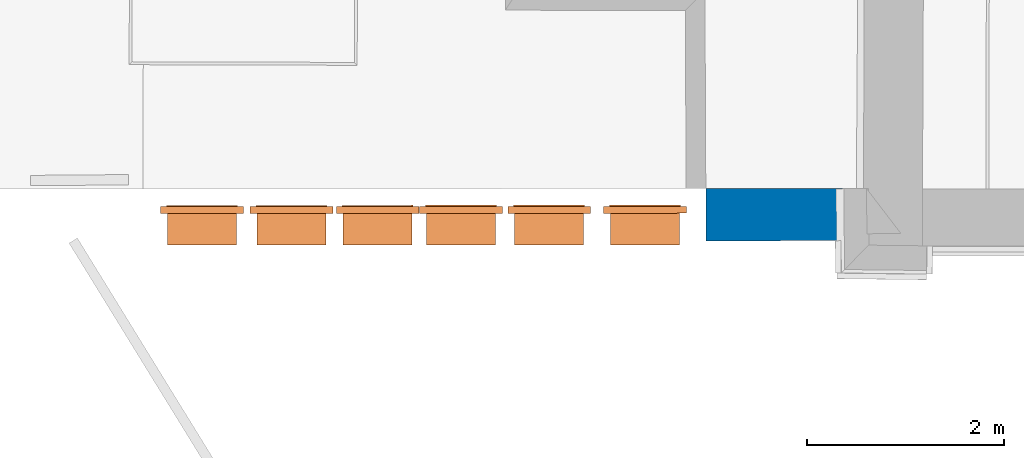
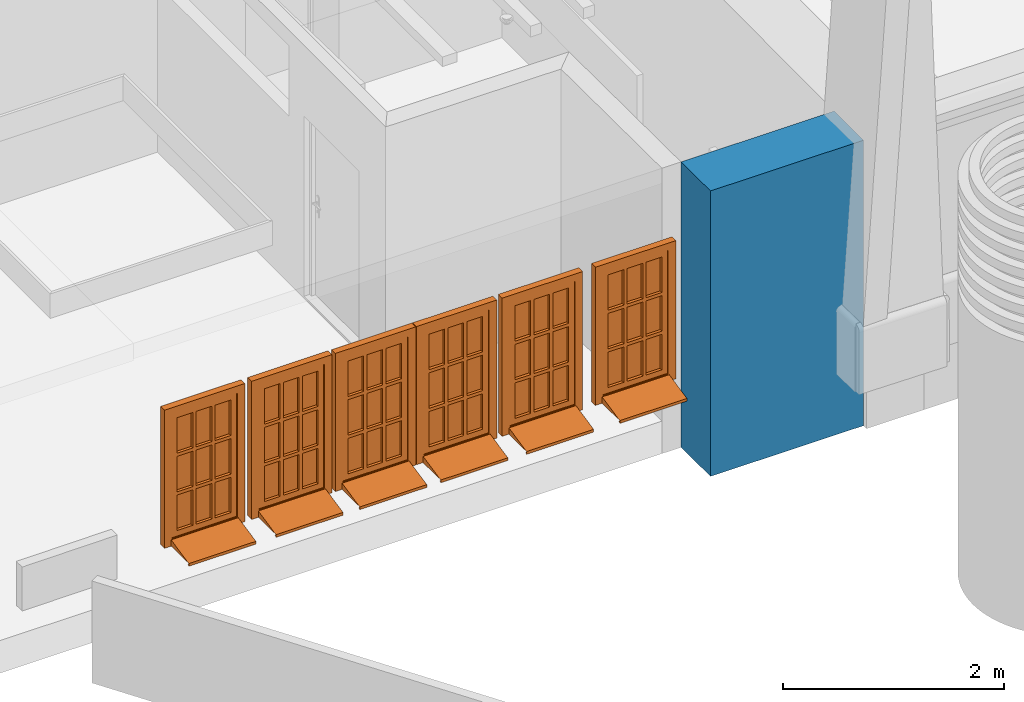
# One storey, part 67 of 196: 6 proxies, 1 wall, 6 openings.
"""IFC2X3 building model written with IfcOpenShell, lengths in metres."""

from ifc_helpers import new_model, entity, si_unit, converted_unit, derived_unit, money_unit, direction, frame, origin_with_axes, origin_2d_with_axis, place, context, subcontext, project, spatial, polyline, rectangle, outline, extrude, boolean, open_shell, faceted_brep, surface_model, source, transform, mapped, material, type_object, element, fill, save


model = new_model("IFC2X3")

# Units and contexts
model_context = context("Model", 3, precision=1e-05, world=origin_with_axes(), true_north=direction((0.0, 1.0)))
body_context = subcontext(model_context, "Body", "Model", "MODEL_VIEW")
ifc_project = project(units=[si_unit("LENGTHUNIT", "METRE"), si_unit("AREAUNIT", "SQUARE_METRE"), si_unit("VOLUMEUNIT", "CUBIC_METRE"), converted_unit("PLANEANGLEUNIT", "DEGREE", entity("IfcPlaneAngleMeasure", 0.0174532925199), si_unit("PLANEANGLEUNIT", "RADIAN"), dimensions=[0, 0, 0, 0, 0, 0, 0]), money_unit("EUR"), converted_unit("TIMEUNIT", "Year", entity("IfcTimeMeasure", 31556926.0), si_unit("TIMEUNIT", "SECOND"), dimensions=[0, 0, 1, 0, 0, 0, 0]), si_unit("MASSUNIT", "GRAM", prefix="KILO"), si_unit("THERMODYNAMICTEMPERATUREUNIT", "DEGREE_CELSIUS"), si_unit("LUMINOUSINTENSITYUNIT", "LUMEN"), si_unit("ENERGYUNIT", "JOULE", prefix="MEGA"), derived_unit("THERMALCONDUCTANCEUNIT", [(si_unit("POWERUNIT", "WATT"), 1), (si_unit("LENGTHUNIT", "METRE"), -1), (si_unit("THERMODYNAMICTEMPERATUREUNIT", "KELVIN"), -1)]), derived_unit("SPECIFICHEATCAPACITYUNIT", [(si_unit("ENERGYUNIT", "JOULE"), 1), (si_unit("MASSUNIT", "GRAM", prefix="KILO"), -1), (si_unit("THERMODYNAMICTEMPERATUREUNIT", "KELVIN"), -1)]), derived_unit("MASSDENSITYUNIT", [(si_unit("MASSUNIT", "GRAM", prefix="KILO"), 1), (si_unit("VOLUMEUNIT", "CUBIC_METRE"), -1)])], contexts=[model_context])

# Site, building, storey
site_placement = place(None, origin_with_axes())
site = spatial("IfcSite", under=ifc_project, at=site_placement, Name="Gelände", CompositionType="ELEMENT")
building_placement = place(site_placement, origin_with_axes())
building = spatial("IfcBuilding", under=site, at=building_placement, Name="Gebäude", CompositionType="ELEMENT")
storey_placement = place(building_placement, frame((0.0, 0.0, -3.0), z_axis=(0.0, 0.0, 1.0), x_axis=(1.0, 0.0, 0.0)))
storey = spatial("IfcBuildingStorey", under=building, at=storey_placement, Name="KELLERGESCHOSS", CompositionType="ELEMENT", Elevation=-3.0)

# Wall, openings, proxies
ifc_material = material(Name="05_ALLGEMEIN - TRAGENDE BAUTEILE")
wall_type = type_object("IfcWallType", Name="05_ALLGEMEIN - TRAGENDE BAUTEILE 530", PredefinedType="ELEMENTEDWALL")
wall_placement = place(storey_placement, frame((12.4270541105, 9.93827663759, -0.36), z_axis=(0.0, 0.0, 1.0), x_axis=(0.99999979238, 0.000644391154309, 0.0)))
wall = element("IfcWall", 1, at=wall_placement, inside=storey, type_object=wall_type, material=ifc_material, Name="Wand-034", ObjectType="ELEMENTEDWALL", context=body_context, shape_type="CSG", body=[
    boolean("DIFFERENCE", boolean("DIFFERENCE", boolean("DIFFERENCE", extrude(outline(polyline([(-0.400000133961, 0.0), (9.94781990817, 0.0), (9.94781990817, 0.53), (-0.400000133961, 0.53), (-0.400000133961, 0.0)])), origin_with_axes(), (0.0, 0.0, 1.0), 3.15), faceted_brep([(0.0, 0.529620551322, 3.15), (0.0, 0.53, 3.15), (-0.400000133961, 0.53, 3.15), (-0.400000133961, 0.0, 3.15), (0.0, 0.0, 3.15), (0.000433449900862, 0.529620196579, 3.15), (0.0, 0.53, 3.065), (0.0, 0.529620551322, 3.065), (-0.0942180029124, 0.529999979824, 0.32), (-0.0942180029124, 0.529999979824, 0.0), (-0.400000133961, 0.53, 0.0), (-0.0942180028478, 0.53, 3.065), (-0.0942180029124, 0.529999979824, 2.8), (-0.400000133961, 0.0, 0.0), (0.0, 0.0, 3.065), (0.0, 0.0, 0.0), (0.000433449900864, 0.529620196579, 3.065), (-0.399513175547, 0.529929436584, 3.065), (-0.399513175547, 0.529929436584, 0.0)], [[[0, 1, 2, 3, 4, 5]], [[6, 1, 0, 7]], [[8, 9, 10, 2, 1, 6, 11, 12]], [[2, 10, 13, 3]], [[14, 4, 3, 13, 15]], [[5, 4, 14, 16]], [[0, 5, 16, 7]], [[11, 6, 7, 16, 14, 17]], [[12, 11, 17, 18, 9, 8]], [[18, 15, 13, 10, 9]], [[14, 15, 18, 17]]])), faceted_brep([(7.91312025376, 0.0, 0.0), (7.91312025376, 0.0, 3.15), (7.71311872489, 0.0, 3.15), (7.71311872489, 0.0, 0.0), (7.91104790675, 0.53, 3.15), (7.91104790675, 0.53, 0.0), (7.71104637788, 0.53, 3.15), (7.71104637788, 0.53, 0.0)], [[[0, 1, 2, 3]], [[4, 1, 0, 5]], [[1, 4, 6, 2]], [[3, 2, 6, 7]], [[5, 0, 3, 7]], [[4, 5, 7, 6]]])), faceted_brep([(9.51192517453, 0.53, 0.0), (9.51192517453, 0.53, 3.15), (9.94781990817, 0.53, 3.15), (9.94781990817, 0.53, 0.0), (9.50934545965, 0.0, 3.15), (9.50934545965, 0.0, 0.0), (9.94781990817, 0.0, 3.15), (9.94781990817, 0.0, 0.0)], [[[0, 1, 2, 3]], [[4, 1, 0, 5]], [[1, 4, 6, 2]], [[6, 7, 3, 2]], [[5, 0, 3, 7]], [[4, 5, 7, 6]]])),
])
opening_1_placement = place(wall_placement, frame((2.79283683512, 0.0, 0.977921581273), z_axis=(0.0, 0.0, 1.0), x_axis=(1.0, 0.0, 0.0)))
opening_1 = element("IfcOpeningElement", 2, at=opening_1_placement, cuts=wall, Name="Fenster-015", context=body_context, shape_type="SweptSolid", body=[
    extrude(rectangle(XDim=0.700207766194, YDim=1.45470991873, at=origin_2d_with_axis()), frame((0.0, 0.28, 0.727354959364), z_axis=(0.0, 1.0, 0.0), x_axis=(1.0, 0.0, 0.0)), (0.0, 0.0, -1.0), 0.81),
    extrude(rectangle(XDim=0.840207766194, YDim=1.52470991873, at=origin_2d_with_axis()), frame((0.0, 0.28, 0.762354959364), z_axis=(0.0, -1.0, 0.0), x_axis=(1.0, 0.0, 0.0)), (0.0, 0.0, -1.0), 0.78),
])
opening_2_placement = place(wall_placement, frame((3.7026805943, 0.0, 0.977921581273), z_axis=(0.0, 0.0, 1.0), x_axis=(1.0, 0.0, 0.0)))
opening_2 = element("IfcOpeningElement", 3, at=opening_2_placement, cuts=wall, Name="Fenster-015", context=body_context, shape_type="SweptSolid", body=[
    extrude(rectangle(XDim=0.700207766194, YDim=1.45470991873, at=origin_2d_with_axis()), frame((0.0, 0.28, 0.727354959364), z_axis=(0.0, 1.0, 0.0), x_axis=(1.0, 0.0, 0.0)), (0.0, 0.0, -1.0), 0.81),
    extrude(rectangle(XDim=0.840207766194, YDim=1.52470991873, at=origin_2d_with_axis()), frame((0.0, 0.28, 0.762354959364), z_axis=(0.0, -1.0, 0.0), x_axis=(1.0, 0.0, 0.0)), (0.0, 0.0, -1.0), 0.78),
])
opening_3_placement = place(wall_placement, frame((4.57727240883, 0.0, 0.977921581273), z_axis=(0.0, 0.0, 1.0), x_axis=(1.0, 0.0, 0.0)))
opening_3 = element("IfcOpeningElement", 4, at=opening_3_placement, cuts=wall, Name="Fenster-015", context=body_context, shape_type="SweptSolid", body=[
    extrude(rectangle(XDim=0.700207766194, YDim=1.45470991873, at=origin_2d_with_axis()), frame((0.0, 0.28, 0.727354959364), z_axis=(0.0, 1.0, 0.0), x_axis=(1.0, 0.0, 0.0)), (0.0, 0.0, -1.0), 0.81),
    extrude(rectangle(XDim=0.840207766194, YDim=1.52470991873, at=origin_2d_with_axis()), frame((0.0, 0.28, 0.762354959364), z_axis=(0.0, -1.0, 0.0), x_axis=(1.0, 0.0, 0.0)), (0.0, 0.0, -1.0), 0.78),
])
opening_4_placement = place(wall_placement, frame((5.42324881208, 0.0, 0.977921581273), z_axis=(0.0, 0.0, 1.0), x_axis=(1.0, 0.0, 0.0)))
opening_4 = element("IfcOpeningElement", 5, at=opening_4_placement, cuts=wall, Name="Fenster-015", context=body_context, shape_type="SweptSolid", body=[
    extrude(rectangle(XDim=0.700207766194, YDim=1.45470991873, at=origin_2d_with_axis()), frame((0.0, 0.28, 0.727354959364), z_axis=(0.0, 1.0, 0.0), x_axis=(1.0, 0.0, 0.0)), (0.0, 0.0, -1.0), 0.81),
    extrude(rectangle(XDim=0.840207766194, YDim=1.52470991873, at=origin_2d_with_axis()), frame((0.0, 0.28, 0.762354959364), z_axis=(0.0, -1.0, 0.0), x_axis=(1.0, 0.0, 0.0)), (0.0, 0.0, -1.0), 0.78),
])
opening_5_placement = place(wall_placement, frame((6.3194075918, 0.0, 0.977921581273), z_axis=(0.0, 0.0, 1.0), x_axis=(1.0, 0.0, 0.0)))
opening_5 = element("IfcOpeningElement", 6, at=opening_5_placement, cuts=wall, Name="Fenster-015", context=body_context, shape_type="SweptSolid", body=[
    extrude(rectangle(XDim=0.700207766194, YDim=1.45470991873, at=origin_2d_with_axis()), frame((0.0, 0.28, 0.727354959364), z_axis=(0.0, 1.0, 0.0), x_axis=(1.0, 0.0, 0.0)), (0.0, 0.0, -1.0), 0.81),
    extrude(rectangle(XDim=0.840207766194, YDim=1.52470991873, at=origin_2d_with_axis()), frame((0.0, 0.28, 0.762354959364), z_axis=(0.0, -1.0, 0.0), x_axis=(1.0, 0.0, 0.0)), (0.0, 0.0, -1.0), 0.78),
])
opening_6_placement = place(wall_placement, frame((7.29305626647, 0.0, 0.977921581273), z_axis=(0.0, 0.0, 1.0), x_axis=(1.0, 0.0, 0.0)))
opening_6 = element("IfcOpeningElement", 7, at=opening_6_placement, cuts=wall, Name="Fenster-015", context=body_context, shape_type="SweptSolid", body=[
    extrude(rectangle(XDim=0.700207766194, YDim=1.45470991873, at=origin_2d_with_axis()), frame((0.0, 0.28, 0.727354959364), z_axis=(0.0, 1.0, 0.0), x_axis=(1.0, 0.0, 0.0)), (0.0, 0.0, -1.0), 0.81),
    extrude(rectangle(XDim=0.840207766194, YDim=1.52470991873, at=origin_2d_with_axis()), frame((0.0, 0.28, 0.762354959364), z_axis=(0.0, -1.0, 0.0), x_axis=(1.0, 0.0, 0.0)), (0.0, 0.0, -1.0), 0.78),
])
building_element_proxy_type = type_object("IfcBuildingElementProxyType", Name="1-Flügelfenster 25", PredefinedType="NOTDEFINED")
shared_shape = source(origin_with_axes(), body_context, "Body", "SurfaceModel", [
    surface_model("IfcShellBasedSurfaceModel", [(-0.350103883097, -0.071, 0.08), (-0.350103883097, -0.071, 0.07), (0.350103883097, -0.071, 0.07), (0.350103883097, -0.071, 0.08), (-0.350103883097, -0.39, 0.00142857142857), (0.350103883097, -0.39, 0.00142857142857), (-0.350103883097, -0.39, -0.0285714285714), (0.350103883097, -0.39, -0.0285714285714), (-0.350103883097, -0.375, -0.0135714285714), (0.350103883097, -0.375, -0.0135714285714)], [open_shell([[[0, 1, 2, 3]], [[1, 4, 5, 2]], [[4, 6, 7, 5]], [[6, 8, 9, 7]]])]),
    faceted_brep([(-0.350103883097, -0.07, 0.0689771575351), (-0.350103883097, -0.35, 0.00878906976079), (0.350103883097, -0.35, 0.00878906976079), (0.350103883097, -0.07, 0.0689771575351), (-0.350103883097, -0.07, 0.0), (-0.350103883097, -0.35, 0.0), (0.350103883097, -0.35, 0.0), (0.350103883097, -0.07, 0.0)], [[[0, 1, 2, 3]], [[0, 4, 5, 1]], [[1, 5, 6, 2]], [[3, 2, 6, 7]], [[4, 0, 3, 7]], [[5, 4, 7, 6]]]),
    faceted_brep([(-0.420103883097, -0.07, 0.0), (-0.420103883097, 0.0, 0.0), (-0.340103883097, 0.0, 0.08), (-0.340103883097, -0.07, 0.08), (-0.420103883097, -0.07, 1.52470991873), (-0.420103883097, 0.0, 1.52470991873), (-0.340103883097, 0.0, 1.44470991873), (-0.340103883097, -0.07, 1.44470991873)], [[[0, 1, 2, 3]], [[4, 5, 1, 0]], [[1, 5, 6, 2]], [[3, 2, 6, 7]], [[0, 3, 7, 4]], [[7, 6, 5, 4]]]),
    faceted_brep([(0.420103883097, -0.07, 0.0), (0.420103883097, 0.0, 0.0), (0.420103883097, 0.0, 1.52470991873), (0.420103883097, -0.07, 1.52470991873), (0.340103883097, -0.07, 0.08), (0.340103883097, 0.0, 0.08), (0.340103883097, 0.0, 1.44470991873), (0.340103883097, -0.07, 1.44470991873)], [[[0, 1, 2, 3]], [[4, 5, 1, 0]], [[1, 5, 6, 2]], [[3, 2, 6, 7]], [[0, 3, 7, 4]], [[7, 6, 5, 4]]]),
    faceted_brep([(-0.420103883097, -0.07, 0.0), (-0.420103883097, 0.0, 0.0), (0.420103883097, 0.0, 0.0), (0.420103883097, -0.07, 0.0), (-0.340103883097, -0.07, 0.08), (-0.340103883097, 0.0, 0.08), (0.0, 0.0, 0.08), (0.340103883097, 0.0, 0.08), (0.340103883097, -0.07, 0.08), (0.0, -0.07, 0.08)], [[[0, 1, 2, 3]], [[4, 5, 1, 0]], [[1, 5, 6, 7, 2]], [[3, 2, 7, 8]], [[0, 3, 8, 9, 4]], [[9, 6, 5, 4]], [[8, 7, 6, 9]]]),
    faceted_brep([(-0.420103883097, -0.07, 1.52470991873), (-0.420103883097, 0.0, 1.52470991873), (-0.340103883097, 0.0, 1.44470991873), (-0.340103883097, -0.07, 1.44470991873), (0.420103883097, -0.07, 1.52470991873), (0.420103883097, 0.0, 1.52470991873), (0.340103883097, 0.0, 1.44470991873), (0.0, 0.0, 1.44470991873), (0.0, -0.07, 1.44470991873), (0.340103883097, -0.07, 1.44470991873)], [[[0, 1, 2, 3]], [[4, 5, 1, 0]], [[1, 5, 6, 7, 2]], [[3, 2, 7, 8]], [[0, 3, 8, 9, 4]], [[9, 6, 5, 4]], [[8, 7, 6, 9]]]),
    faceted_brep([(-0.360103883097, 0.0, 0.06), (-0.360103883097, 0.013, 0.06), (-0.280103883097, 0.013, 0.14), (-0.280103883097, 0.0, 0.14), (-0.360103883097, 0.0, 1.46470991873), (-0.360103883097, 0.013, 1.46470991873), (-0.280103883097, 0.013, 1.38470991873), (-0.280103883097, 0.0, 1.38470991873)], [[[0, 1, 2, 3]], [[4, 5, 1, 0]], [[1, 5, 6, 2]], [[3, 2, 6, 7]], [[0, 3, 7, 4]], [[7, 6, 5, 4]]]),
    faceted_brep([(0.360103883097, 0.0, 0.06), (0.280103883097, 0.0, 0.14), (0.280103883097, 0.013, 0.14), (0.360103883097, 0.013, 0.06), (0.360103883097, 0.0, 1.46470991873), (0.280103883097, 0.0, 1.38470991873), (0.280103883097, 0.013, 1.38470991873), (0.360103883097, 0.013, 1.46470991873)], [[[0, 1, 2, 3]], [[0, 4, 5, 1]], [[1, 5, 6, 2]], [[3, 2, 6, 7]], [[4, 0, 3, 7]], [[5, 4, 7, 6]]]),
    faceted_brep([(-0.360103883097, 0.0, 0.06), (-0.360103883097, 0.013, 0.06), (0.360103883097, 0.013, 0.06), (0.360103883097, 0.0, 0.06), (-0.280103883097, 0.0, 0.14), (-0.280103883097, 0.013, 0.14), (0.280103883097, 0.013, 0.14), (0.280103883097, 0.0, 0.14)], [[[0, 1, 2, 3]], [[4, 5, 1, 0]], [[1, 5, 6, 2]], [[3, 2, 6, 7]], [[0, 3, 7, 4]], [[7, 6, 5, 4]]]),
    faceted_brep([(-0.360103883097, 0.0, 1.46470991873), (0.360103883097, 0.0, 1.46470991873), (0.360103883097, 0.013, 1.46470991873), (-0.360103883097, 0.013, 1.46470991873), (-0.280103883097, 0.0, 1.38470991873), (0.280103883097, 0.0, 1.38470991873), (0.280103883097, 0.013, 1.38470991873), (-0.280103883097, 0.013, 1.38470991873)], [[[0, 1, 2, 3]], [[0, 4, 5, 1]], [[1, 5, 6, 2]], [[3, 2, 6, 7]], [[4, 0, 3, 7]], [[5, 4, 7, 6]]]),
    faceted_brep([(-0.340103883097, -0.057, 0.08), (-0.340103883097, 0.0, 0.08), (-0.280103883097, 0.0, 0.14), (-0.280103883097, -0.057, 0.14), (-0.340103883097, -0.057, 1.44470991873), (-0.340103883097, 0.0, 1.44470991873), (-0.280103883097, 0.0, 1.38470991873), (-0.280103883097, -0.057, 1.38470991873)], [[[0, 1, 2, 3]], [[4, 5, 1, 0]], [[1, 5, 6, 2]], [[3, 2, 6, 7]], [[0, 3, 7, 4]], [[7, 6, 5, 4]]]),
    faceted_brep([(0.340103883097, -0.057, 0.08), (0.280103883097, -0.057, 0.14), (0.280103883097, 0.0, 0.14), (0.340103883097, 0.0, 0.08), (0.340103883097, -0.057, 1.44470991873), (0.280103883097, -0.057, 1.38470991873), (0.280103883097, 0.0, 1.38470991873), (0.340103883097, 0.0, 1.44470991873)], [[[0, 1, 2, 3]], [[0, 4, 5, 1]], [[1, 5, 6, 2]], [[3, 2, 6, 7]], [[4, 0, 3, 7]], [[5, 4, 7, 6]]]),
    faceted_brep([(-0.340103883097, -0.057, 0.08), (-0.340103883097, 0.0, 0.08), (0.340103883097, 0.0, 0.08), (0.340103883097, -0.057, 0.08), (-0.280103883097, -0.057, 0.14), (-0.280103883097, 0.0, 0.14), (0.280103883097, 0.0, 0.14), (0.280103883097, -0.057, 0.14)], [[[0, 1, 2, 3]], [[4, 5, 1, 0]], [[1, 5, 6, 2]], [[3, 2, 6, 7]], [[0, 3, 7, 4]], [[7, 6, 5, 4]]]),
    faceted_brep([(-0.340103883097, -0.057, 1.44470991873), (0.340103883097, -0.057, 1.44470991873), (0.340103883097, 0.0, 1.44470991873), (-0.340103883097, 0.0, 1.44470991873), (-0.280103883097, -0.057, 1.38470991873), (0.280103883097, -0.057, 1.38470991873), (0.280103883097, 0.0, 1.38470991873), (-0.280103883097, 0.0, 1.38470991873)], [[[0, 1, 2, 3]], [[0, 4, 5, 1]], [[1, 5, 6, 2]], [[3, 2, 6, 7]], [[4, 0, 3, 7]], [[5, 4, 7, 6]]]),
    faceted_brep([(-0.116701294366, -0.057, 0.14), (-0.116701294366, -0.022, 0.14), (-0.0817012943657, -0.022, 0.14), (-0.0817012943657, -0.057, 0.14), (-0.116701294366, -0.057, 1.38470991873), (-0.116701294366, -0.022, 1.38470991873), (-0.0817012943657, -0.022, 1.38470991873), (-0.0817012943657, -0.057, 1.38470991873)], [[[0, 1, 2, 3]], [[4, 5, 1, 0]], [[1, 5, 6, 2]], [[3, 2, 6, 7]], [[0, 3, 7, 4]], [[7, 6, 5, 4]]]),
    faceted_brep([(-0.116701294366, -0.022, 0.14), (-0.116701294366, 0.013, 0.14), (-0.0817012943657, 0.013, 0.14), (-0.0817012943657, -0.022, 0.14), (-0.116701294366, -0.022, 1.38470991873), (-0.116701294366, 0.013, 1.38470991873), (-0.0817012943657, 0.013, 1.38470991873), (-0.0817012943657, -0.022, 1.38470991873)], [[[0, 1, 2, 3]], [[4, 5, 1, 0]], [[1, 5, 6, 2]], [[3, 2, 6, 7]], [[0, 3, 7, 4]], [[7, 6, 5, 4]]]),
    faceted_brep([(0.0817012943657, -0.057, 0.14), (0.0817012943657, -0.022, 0.14), (0.116701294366, -0.022, 0.14), (0.116701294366, -0.057, 0.14), (0.0817012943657, -0.057, 1.38470991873), (0.0817012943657, -0.022, 1.38470991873), (0.116701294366, -0.022, 1.38470991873), (0.116701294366, -0.057, 1.38470991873)], [[[0, 1, 2, 3]], [[4, 5, 1, 0]], [[1, 5, 6, 2]], [[3, 2, 6, 7]], [[0, 3, 7, 4]], [[7, 6, 5, 4]]]),
    faceted_brep([(0.0817012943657, -0.022, 0.14), (0.0817012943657, 0.013, 0.14), (0.116701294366, 0.013, 0.14), (0.116701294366, -0.022, 0.14), (0.0817012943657, -0.022, 1.38470991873), (0.0817012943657, 0.013, 1.38470991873), (0.116701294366, 0.013, 1.38470991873), (0.116701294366, -0.022, 1.38470991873)], [[[0, 1, 2, 3]], [[4, 5, 1, 0]], [[1, 5, 6, 2]], [[3, 2, 6, 7]], [[0, 3, 7, 4]], [[7, 6, 5, 4]]]),
    faceted_brep([(0.0817012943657, -0.057, 0.531569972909), (0.0817012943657, -0.057, 0.566569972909), (-0.0817012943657, -0.057, 0.566569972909), (-0.0817012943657, -0.057, 0.531569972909), (0.0817012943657, -0.022, 0.566569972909), (0.0817012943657, -0.022, 0.531569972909), (-0.0817012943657, -0.022, 0.566569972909), (-0.0817012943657, -0.022, 0.531569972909)], [[[0, 1, 2, 3]], [[4, 1, 0, 5]], [[1, 4, 6, 2]], [[2, 6, 7, 3]], [[5, 0, 3, 7]], [[4, 5, 7, 6]]]),
    faceted_brep([(-0.280103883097, -0.057, 0.566569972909), (-0.280103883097, -0.057, 0.531569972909), (-0.116701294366, -0.057, 0.531569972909), (-0.116701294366, -0.057, 0.566569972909), (-0.280103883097, -0.022, 0.566569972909), (-0.280103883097, -0.022, 0.531569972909), (-0.116701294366, -0.022, 0.531569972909), (-0.116701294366, -0.022, 0.566569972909)], [[[0, 1, 2, 3]], [[1, 0, 4, 5]], [[1, 5, 6, 2]], [[2, 6, 7, 3]], [[4, 0, 3, 7]], [[5, 4, 7, 6]]]),
    faceted_brep([(0.116701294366, -0.022, 0.566569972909), (0.116701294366, -0.057, 0.566569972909), (0.280103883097, -0.057, 0.566569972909), (0.280103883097, -0.022, 0.566569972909), (0.116701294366, -0.057, 0.531569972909), (0.116701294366, -0.022, 0.531569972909), (0.280103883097, -0.057, 0.531569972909), (0.280103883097, -0.022, 0.531569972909)], [[[0, 1, 2, 3]], [[4, 1, 0, 5]], [[1, 4, 6, 2]], [[3, 2, 6, 7]], [[5, 0, 3, 7]], [[4, 5, 7, 6]]]),
    faceted_brep([(0.0817012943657, -0.022, 0.531569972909), (0.0817012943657, -0.022, 0.566569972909), (-0.0817012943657, -0.022, 0.566569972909), (-0.0817012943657, -0.022, 0.531569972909), (0.0817012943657, 0.013, 0.566569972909), (0.0817012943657, 0.013, 0.531569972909), (-0.0817012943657, 0.013, 0.566569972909), (-0.0817012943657, 0.013, 0.531569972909)], [[[0, 1, 2, 3]], [[4, 1, 0, 5]], [[1, 4, 6, 2]], [[2, 6, 7, 3]], [[5, 0, 3, 7]], [[4, 5, 7, 6]]]),
    faceted_brep([(-0.280103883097, -0.022, 0.566569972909), (-0.280103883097, -0.022, 0.531569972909), (-0.116701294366, -0.022, 0.531569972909), (-0.116701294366, -0.022, 0.566569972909), (-0.280103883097, 0.013, 0.566569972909), (-0.280103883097, 0.013, 0.531569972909), (-0.116701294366, 0.013, 0.531569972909), (-0.116701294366, 0.013, 0.566569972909)], [[[0, 1, 2, 3]], [[1, 0, 4, 5]], [[1, 5, 6, 2]], [[2, 6, 7, 3]], [[4, 0, 3, 7]], [[5, 4, 7, 6]]]),
    faceted_brep([(0.116701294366, 0.013, 0.566569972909), (0.116701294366, -0.022, 0.566569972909), (0.280103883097, -0.022, 0.566569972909), (0.280103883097, 0.013, 0.566569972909), (0.116701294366, -0.022, 0.531569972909), (0.116701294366, 0.013, 0.531569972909), (0.280103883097, -0.022, 0.531569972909), (0.280103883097, 0.013, 0.531569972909)], [[[0, 1, 2, 3]], [[4, 1, 0, 5]], [[1, 4, 6, 2]], [[3, 2, 6, 7]], [[5, 0, 3, 7]], [[4, 5, 7, 6]]]),
    faceted_brep([(0.0817012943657, -0.057, 0.958139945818), (0.0817012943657, -0.057, 0.993139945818), (-0.0817012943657, -0.057, 0.993139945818), (-0.0817012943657, -0.057, 0.958139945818), (0.0817012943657, -0.022, 0.993139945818), (0.0817012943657, -0.022, 0.958139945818), (-0.0817012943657, -0.022, 0.993139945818), (-0.0817012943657, -0.022, 0.958139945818)], [[[0, 1, 2, 3]], [[4, 1, 0, 5]], [[1, 4, 6, 2]], [[2, 6, 7, 3]], [[5, 0, 3, 7]], [[4, 5, 7, 6]]]),
    faceted_brep([(-0.280103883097, -0.057, 0.993139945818), (-0.280103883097, -0.057, 0.958139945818), (-0.116701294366, -0.057, 0.958139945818), (-0.116701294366, -0.057, 0.993139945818), (-0.280103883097, -0.022, 0.993139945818), (-0.280103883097, -0.022, 0.958139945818), (-0.116701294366, -0.022, 0.958139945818), (-0.116701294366, -0.022, 0.993139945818)], [[[0, 1, 2, 3]], [[1, 0, 4, 5]], [[1, 5, 6, 2]], [[2, 6, 7, 3]], [[4, 0, 3, 7]], [[5, 4, 7, 6]]]),
    faceted_brep([(0.116701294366, -0.022, 0.993139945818), (0.116701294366, -0.057, 0.993139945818), (0.280103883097, -0.057, 0.993139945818), (0.280103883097, -0.022, 0.993139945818), (0.116701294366, -0.057, 0.958139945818), (0.116701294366, -0.022, 0.958139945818), (0.280103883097, -0.057, 0.958139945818), (0.280103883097, -0.022, 0.958139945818)], [[[0, 1, 2, 3]], [[4, 1, 0, 5]], [[1, 4, 6, 2]], [[3, 2, 6, 7]], [[5, 0, 3, 7]], [[4, 5, 7, 6]]]),
    faceted_brep([(0.0817012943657, -0.022, 0.958139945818), (0.0817012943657, -0.022, 0.993139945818), (-0.0817012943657, -0.022, 0.993139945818), (-0.0817012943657, -0.022, 0.958139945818), (0.0817012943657, 0.013, 0.993139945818), (0.0817012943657, 0.013, 0.958139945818), (-0.0817012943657, 0.013, 0.993139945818), (-0.0817012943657, 0.013, 0.958139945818)], [[[0, 1, 2, 3]], [[4, 1, 0, 5]], [[1, 4, 6, 2]], [[2, 6, 7, 3]], [[5, 0, 3, 7]], [[4, 5, 7, 6]]]),
    faceted_brep([(-0.280103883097, -0.022, 0.993139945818), (-0.280103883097, -0.022, 0.958139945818), (-0.116701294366, -0.022, 0.958139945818), (-0.116701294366, -0.022, 0.993139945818), (-0.280103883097, 0.013, 0.993139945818), (-0.280103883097, 0.013, 0.958139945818), (-0.116701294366, 0.013, 0.958139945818), (-0.116701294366, 0.013, 0.993139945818)], [[[0, 1, 2, 3]], [[1, 0, 4, 5]], [[1, 5, 6, 2]], [[2, 6, 7, 3]], [[4, 0, 3, 7]], [[5, 4, 7, 6]]]),
    faceted_brep([(0.116701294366, 0.013, 0.993139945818), (0.116701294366, -0.022, 0.993139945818), (0.280103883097, -0.022, 0.993139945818), (0.280103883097, 0.013, 0.993139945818), (0.116701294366, -0.022, 0.958139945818), (0.116701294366, 0.013, 0.958139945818), (0.280103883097, -0.022, 0.958139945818), (0.280103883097, 0.013, 0.958139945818)], [[[0, 1, 2, 3]], [[4, 1, 0, 5]], [[1, 4, 6, 2]], [[3, 2, 6, 7]], [[5, 0, 3, 7]], [[4, 5, 7, 6]]]),
    faceted_brep([(-0.116701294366, -0.017, 0.958139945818), (-0.116701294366, -0.027, 0.958139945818), (-0.116701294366, -0.027, 0.566569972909), (-0.116701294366, -0.017, 0.566569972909), (-0.280103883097, -0.027, 0.958139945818), (-0.280103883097, -0.017, 0.958139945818), (-0.280103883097, -0.027, 0.566569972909), (-0.280103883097, -0.017, 0.566569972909)], [[[0, 1, 2, 3]], [[4, 1, 0, 5]], [[1, 4, 6, 2]], [[2, 6, 7, 3]], [[5, 0, 3, 7]], [[4, 5, 7, 6]]]),
    faceted_brep([(0.280103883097, -0.027, 0.14), (0.280103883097, -0.017, 0.14), (0.280103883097, -0.017, 0.531569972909), (0.280103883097, -0.027, 0.531569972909), (0.116701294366, -0.027, 0.14), (0.116701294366, -0.017, 0.14), (0.116701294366, -0.017, 0.531569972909), (0.116701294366, -0.027, 0.531569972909)], [[[0, 1, 2, 3]], [[0, 4, 5, 1]], [[1, 5, 6, 2]], [[2, 6, 7, 3]], [[4, 0, 3, 7]], [[5, 4, 7, 6]]]),
    faceted_brep([(0.0817012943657, -0.027, 0.14), (0.0817012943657, -0.017, 0.14), (0.0817012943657, -0.017, 0.531569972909), (0.0817012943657, -0.027, 0.531569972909), (-0.0817012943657, -0.017, 0.14), (-0.0817012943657, -0.027, 0.14), (-0.0817012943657, -0.017, 0.531569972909), (-0.0817012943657, -0.027, 0.531569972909)], [[[0, 1, 2, 3]], [[4, 1, 0, 5]], [[1, 4, 6, 2]], [[2, 6, 7, 3]], [[5, 0, 3, 7]], [[4, 5, 7, 6]]]),
    faceted_brep([(-0.116701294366, -0.027, 0.14), (-0.116701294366, -0.017, 0.14), (-0.116701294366, -0.017, 0.531569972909), (-0.116701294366, -0.027, 0.531569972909), (-0.280103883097, -0.027, 0.14), (-0.280103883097, -0.017, 0.14), (-0.280103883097, -0.017, 0.531569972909), (-0.280103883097, -0.027, 0.531569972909)], [[[0, 1, 2, 3]], [[0, 4, 5, 1]], [[1, 5, 6, 2]], [[2, 6, 7, 3]], [[4, 0, 3, 7]], [[5, 4, 7, 6]]]),
    faceted_brep([(0.280103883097, -0.017, 0.958139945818), (0.280103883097, -0.027, 0.958139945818), (0.280103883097, -0.027, 0.566569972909), (0.280103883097, -0.017, 0.566569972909), (0.116701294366, -0.027, 0.958139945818), (0.116701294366, -0.017, 0.958139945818), (0.116701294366, -0.027, 0.566569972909), (0.116701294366, -0.017, 0.566569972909)], [[[0, 1, 2, 3]], [[4, 1, 0, 5]], [[1, 4, 6, 2]], [[2, 6, 7, 3]], [[5, 0, 3, 7]], [[4, 5, 7, 6]]]),
    faceted_brep([(0.0817012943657, -0.017, 0.958139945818), (0.0817012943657, -0.027, 0.958139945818), (0.0817012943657, -0.027, 0.566569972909), (0.0817012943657, -0.017, 0.566569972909), (-0.0817012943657, -0.027, 0.958139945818), (-0.0817012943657, -0.017, 0.958139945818), (-0.0817012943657, -0.027, 0.566569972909), (-0.0817012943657, -0.017, 0.566569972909)], [[[0, 1, 2, 3]], [[4, 1, 0, 5]], [[1, 4, 6, 2]], [[2, 6, 7, 3]], [[5, 0, 3, 7]], [[4, 5, 7, 6]]]),
    faceted_brep([(-0.280103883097, -0.027, 0.993139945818), (-0.116701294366, -0.027, 0.993139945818), (-0.116701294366, -0.027, 1.38470991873), (-0.280103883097, -0.027, 1.38470991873), (-0.116701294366, -0.017, 0.993139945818), (-0.280103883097, -0.017, 0.993139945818), (-0.116701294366, -0.017, 1.38470991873), (-0.280103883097, -0.017, 1.38470991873)], [[[0, 1, 2, 3]], [[4, 1, 0, 5]], [[1, 4, 6, 2]], [[2, 6, 7, 3]], [[5, 0, 3, 7]], [[4, 5, 7, 6]]]),
    faceted_brep([(0.116701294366, -0.027, 0.993139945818), (0.280103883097, -0.027, 0.993139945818), (0.280103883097, -0.027, 1.38470991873), (0.116701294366, -0.027, 1.38470991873), (0.280103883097, -0.017, 0.993139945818), (0.116701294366, -0.017, 0.993139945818), (0.280103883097, -0.017, 1.38470991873), (0.116701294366, -0.017, 1.38470991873)], [[[0, 1, 2, 3]], [[4, 1, 0, 5]], [[1, 4, 6, 2]], [[2, 6, 7, 3]], [[5, 0, 3, 7]], [[4, 5, 7, 6]]]),
    faceted_brep([(-0.0817012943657, -0.027, 0.993139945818), (0.0817012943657, -0.027, 0.993139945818), (0.0817012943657, -0.027, 1.38470991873), (-0.0817012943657, -0.027, 1.38470991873), (0.0817012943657, -0.017, 0.993139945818), (-0.0817012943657, -0.017, 0.993139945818), (0.0817012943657, -0.017, 1.38470991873), (-0.0817012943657, -0.017, 1.38470991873)], [[[0, 1, 2, 3]], [[4, 1, 0, 5]], [[1, 4, 6, 2]], [[7, 3, 2, 6]], [[5, 0, 3, 7]], [[4, 5, 7, 6]]]),
])
proxy_1_placement = place(opening_1_placement, frame((-0.420103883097, 0.0, 0.0), z_axis=(0.0, 0.0, 1.0), x_axis=(1.0, 0.0, 0.0)))
proxy_1 = element("IfcBuildingElementProxy", 8, at=proxy_1_placement, inside=storey, type_object=building_element_proxy_type, Name="Fenster-015", context=body_context, shape_type="MappedRepresentation", body=[
    mapped(shared_shape, transform((0.420103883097, 0.35, 0.0))),
])
fill(opening_1, proxy_1)
proxy_2_placement = place(opening_2_placement, frame((-0.420103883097, 0.0, 0.0), z_axis=(0.0, 0.0, 1.0), x_axis=(1.0, 0.0, 0.0)))
proxy_2 = element("IfcBuildingElementProxy", 9, at=proxy_2_placement, inside=storey, type_object=building_element_proxy_type, Name="Fenster-015", context=body_context, shape_type="MappedRepresentation", body=[
    mapped(shared_shape, transform((0.420103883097, 0.35, 0.0))),
])
fill(opening_2, proxy_2)
proxy_3_placement = place(opening_3_placement, frame((-0.420103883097, 0.0, 0.0), z_axis=(0.0, 0.0, 1.0), x_axis=(1.0, 0.0, 0.0)))
proxy_3 = element("IfcBuildingElementProxy", 10, at=proxy_3_placement, inside=storey, type_object=building_element_proxy_type, Name="Fenster-015", context=body_context, shape_type="MappedRepresentation", body=[
    mapped(shared_shape, transform((0.420103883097, 0.35, 0.0))),
])
fill(opening_3, proxy_3)
proxy_4_placement = place(opening_4_placement, frame((-0.420103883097, 0.0, 0.0), z_axis=(0.0, 0.0, 1.0), x_axis=(1.0, 0.0, 0.0)))
proxy_4 = element("IfcBuildingElementProxy", 11, at=proxy_4_placement, inside=storey, type_object=building_element_proxy_type, Name="Fenster-015", context=body_context, shape_type="MappedRepresentation", body=[
    mapped(shared_shape, transform((0.420103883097, 0.35, 0.0))),
])
fill(opening_4, proxy_4)
proxy_5_placement = place(opening_5_placement, frame((-0.420103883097, 0.0, 0.0), z_axis=(0.0, 0.0, 1.0), x_axis=(1.0, 0.0, 0.0)))
proxy_5 = element("IfcBuildingElementProxy", 12, at=proxy_5_placement, inside=storey, type_object=building_element_proxy_type, Name="Fenster-015", context=body_context, shape_type="MappedRepresentation", body=[
    mapped(shared_shape, transform((0.420103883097, 0.35, 0.0))),
])
fill(opening_5, proxy_5)
proxy_6_placement = place(opening_6_placement, frame((-0.420103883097, 0.0, 0.0), z_axis=(0.0, 0.0, 1.0), x_axis=(1.0, 0.0, 0.0)))
proxy_6 = element("IfcBuildingElementProxy", 13, at=proxy_6_placement, inside=storey, type_object=building_element_proxy_type, Name="Fenster-015", context=body_context, shape_type="MappedRepresentation", body=[
    mapped(shared_shape, transform((0.420103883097, 0.35, 0.0))),
])
fill(opening_6, proxy_6)

save(model, "model.ifc")
